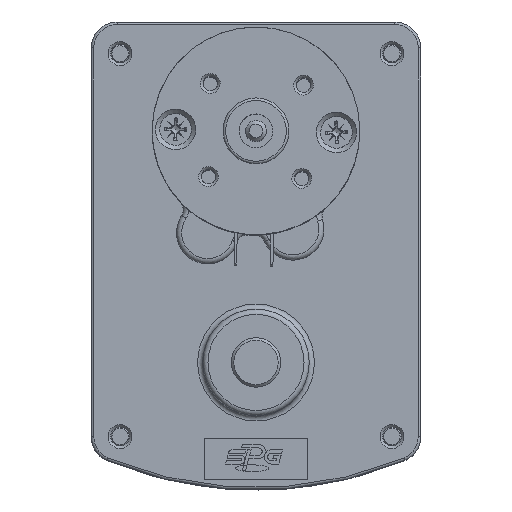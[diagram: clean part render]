
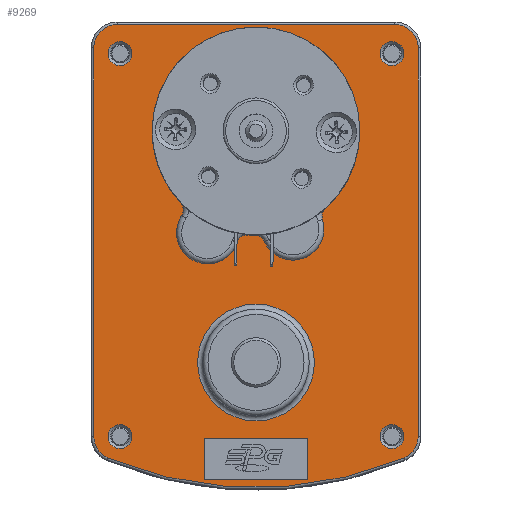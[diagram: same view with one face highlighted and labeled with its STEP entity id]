
A CAD part, top view. The second image highlights one B-rep face of the part: STEP entity #9269.
In plain terms, the highlighted planar face has unit normal (0, 0, 1).
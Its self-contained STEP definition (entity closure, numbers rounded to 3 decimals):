
#312=LINE('',#13993,#817);
#314=LINE('',#14005,#819);
#316=LINE('',#14017,#821);
#461=LINE('',#14594,#966);
#463=LINE('',#14598,#968);
#465=LINE('',#14602,#970);
#467=LINE('',#14605,#972);
#817=VECTOR('',#10973,74.87);
#819=VECTOR('',#10987,53.5);
#821=VECTOR('',#11001,74.87);
#966=VECTOR('',#11482,8.);
#968=VECTOR('',#11486,20.);
#970=VECTOR('',#11490,8.);
#972=VECTOR('',#11494,20.);
#1575=PLANE('',#10347);
#1937=FACE_BOUND('',#3255,.T.);
#1938=FACE_BOUND('',#3256,.T.);
#1939=FACE_BOUND('',#3257,.T.);
#1940=FACE_BOUND('',#3258,.T.);
#1941=FACE_BOUND('',#3259,.T.);
#1942=FACE_BOUND('',#3260,.T.);
#1943=FACE_BOUND('',#3261,.T.);
#2509=FACE_OUTER_BOUND('',#3254,.T.);
#3254=EDGE_LOOP('',(#8170,#8171,#8172,#8173,#8174,#8175,#8176,#8177));
#3255=EDGE_LOOP('',(#8178));
#3256=EDGE_LOOP('',(#8179,#8180,#8181,#8182));
#3257=EDGE_LOOP('',(#8183));
#3258=EDGE_LOOP('',(#8184));
#3259=EDGE_LOOP('',(#8185));
#3260=EDGE_LOOP('',(#8186,#8187,#8188,#8189,#8190,#8191,#8192,#8193));
#3261=EDGE_LOOP('',(#8194));
#3562=CIRCLE('',#9577,4.5);
#3568=CIRCLE('',#9585,4.5);
#3572=CIRCLE('',#9591,4.5);
#3576=CIRCLE('',#9597,4.5);
#3578=CIRCLE('',#9600,74.29);
#3657=CIRCLE('',#9754,2.3);
#3658=CIRCLE('',#9756,2.3);
#3659=CIRCLE('',#9758,2.3);
#3660=CIRCLE('',#9760,2.3);
#3910=CIRCLE('',#10289,6.);
#3912=CIRCLE('',#10292,2.);
#3914=CIRCLE('',#10295,2.);
#3916=CIRCLE('',#10298,20.);
#3918=CIRCLE('',#10301,2.);
#3920=CIRCLE('',#10304,6.);
#3922=CIRCLE('',#10307,2.);
#3924=CIRCLE('',#10310,20.);
#3937=CIRCLE('',#10348,11.25);
#4147=VERTEX_POINT('',#13981);
#4148=VERTEX_POINT('',#13983);
#4150=VERTEX_POINT('',#13989);
#4152=VERTEX_POINT('',#13995);
#4154=VERTEX_POINT('',#14001);
#4156=VERTEX_POINT('',#14007);
#4158=VERTEX_POINT('',#14013);
#4160=VERTEX_POINT('',#14019);
#4320=VERTEX_POINT('',#14579);
#4321=VERTEX_POINT('',#14582);
#4322=VERTEX_POINT('',#14585);
#4323=VERTEX_POINT('',#14588);
#4324=VERTEX_POINT('',#14591);
#4325=VERTEX_POINT('',#14593);
#4326=VERTEX_POINT('',#14597);
#4327=VERTEX_POINT('',#14601);
#4724=VERTEX_POINT('',#16705);
#4725=VERTEX_POINT('',#16707);
#4727=VERTEX_POINT('',#16713);
#4729=VERTEX_POINT('',#16719);
#4731=VERTEX_POINT('',#16725);
#4733=VERTEX_POINT('',#16731);
#4735=VERTEX_POINT('',#16737);
#4737=VERTEX_POINT('',#16743);
#4746=VERTEX_POINT('',#16805);
#5047=EDGE_CURVE('',#4147,#4148,#3562,.T.);
#5052=EDGE_CURVE('',#4148,#4150,#312,.T.);
#5055=EDGE_CURVE('',#4150,#4152,#3568,.T.);
#5058=EDGE_CURVE('',#4152,#4154,#314,.T.);
#5061=EDGE_CURVE('',#4154,#4156,#3572,.T.);
#5064=EDGE_CURVE('',#4156,#4158,#316,.T.);
#5067=EDGE_CURVE('',#4158,#4160,#3576,.T.);
#5069=EDGE_CURVE('',#4160,#4147,#3578,.T.);
#5293=EDGE_CURVE('',#4320,#4320,#3657,.T.);
#5294=EDGE_CURVE('',#4321,#4321,#3658,.T.);
#5295=EDGE_CURVE('',#4322,#4322,#3659,.T.);
#5296=EDGE_CURVE('',#4323,#4323,#3660,.T.);
#5298=EDGE_CURVE('',#4325,#4324,#461,.T.);
#5300=EDGE_CURVE('',#4326,#4325,#463,.T.);
#5302=EDGE_CURVE('',#4327,#4326,#465,.T.);
#5304=EDGE_CURVE('',#4324,#4327,#467,.T.);
#5896=EDGE_CURVE('',#4725,#4724,#3910,.T.);
#5899=EDGE_CURVE('',#4727,#4725,#3912,.T.);
#5903=EDGE_CURVE('',#4724,#4729,#3914,.T.);
#5905=EDGE_CURVE('',#4731,#4727,#3916,.T.);
#5908=EDGE_CURVE('',#4733,#4731,#3918,.T.);
#5911=EDGE_CURVE('',#4735,#4733,#3920,.T.);
#5914=EDGE_CURVE('',#4737,#4735,#3922,.T.);
#5917=EDGE_CURVE('',#4729,#4737,#3924,.T.);
#5941=EDGE_CURVE('',#4746,#4746,#3937,.T.);
#8170=ORIENTED_EDGE('',*,*,#5047,.F.);
#8171=ORIENTED_EDGE('',*,*,#5069,.F.);
#8172=ORIENTED_EDGE('',*,*,#5067,.F.);
#8173=ORIENTED_EDGE('',*,*,#5064,.F.);
#8174=ORIENTED_EDGE('',*,*,#5061,.F.);
#8175=ORIENTED_EDGE('',*,*,#5058,.F.);
#8176=ORIENTED_EDGE('',*,*,#5055,.F.);
#8177=ORIENTED_EDGE('',*,*,#5052,.F.);
#8178=ORIENTED_EDGE('',*,*,#5293,.F.);
#8179=ORIENTED_EDGE('',*,*,#5298,.T.);
#8180=ORIENTED_EDGE('',*,*,#5304,.T.);
#8181=ORIENTED_EDGE('',*,*,#5302,.T.);
#8182=ORIENTED_EDGE('',*,*,#5300,.T.);
#8183=ORIENTED_EDGE('',*,*,#5296,.F.);
#8184=ORIENTED_EDGE('',*,*,#5295,.F.);
#8185=ORIENTED_EDGE('',*,*,#5294,.F.);
#8186=ORIENTED_EDGE('',*,*,#5908,.T.);
#8187=ORIENTED_EDGE('',*,*,#5905,.T.);
#8188=ORIENTED_EDGE('',*,*,#5899,.T.);
#8189=ORIENTED_EDGE('',*,*,#5896,.T.);
#8190=ORIENTED_EDGE('',*,*,#5903,.T.);
#8191=ORIENTED_EDGE('',*,*,#5917,.T.);
#8192=ORIENTED_EDGE('',*,*,#5914,.T.);
#8193=ORIENTED_EDGE('',*,*,#5911,.T.);
#8194=ORIENTED_EDGE('',*,*,#5941,.F.);
#9269=ADVANCED_FACE('',(#2509,#1937,#1938,#1939,#1940,#1941,#1942,#1943),
#1575,.T.);
#9577=AXIS2_PLACEMENT_3D('',#13984,#10962,#10963);
#9585=AXIS2_PLACEMENT_3D('',#13999,#10980,#10981);
#9591=AXIS2_PLACEMENT_3D('',#14011,#10994,#10995);
#9597=AXIS2_PLACEMENT_3D('',#14023,#11008,#11009);
#9600=AXIS2_PLACEMENT_3D('',#14026,#11014,#11015);
#9754=AXIS2_PLACEMENT_3D('',#14580,#11465,#11466);
#9756=AXIS2_PLACEMENT_3D('',#14583,#11469,#11470);
#9758=AXIS2_PLACEMENT_3D('',#14586,#11473,#11474);
#9760=AXIS2_PLACEMENT_3D('',#14589,#11477,#11478);
#10289=AXIS2_PLACEMENT_3D('',#16708,#12753,#12754);
#10292=AXIS2_PLACEMENT_3D('',#16714,#12760,#12761);
#10295=AXIS2_PLACEMENT_3D('',#16721,#12768,#12769);
#10298=AXIS2_PLACEMENT_3D('',#16726,#12774,#12775);
#10301=AXIS2_PLACEMENT_3D('',#16732,#12781,#12782);
#10304=AXIS2_PLACEMENT_3D('',#16738,#12788,#12789);
#10307=AXIS2_PLACEMENT_3D('',#16744,#12795,#12796);
#10310=AXIS2_PLACEMENT_3D('',#16748,#12802,#12803);
#10347=AXIS2_PLACEMENT_3D('',#16804,#12887,#12888);
#10348=AXIS2_PLACEMENT_3D('',#16806,#12889,#12890);
#10962=DIRECTION('center_axis',(0.,0.,-1.));
#10963=DIRECTION('ref_axis',(-0.832,-0.555,0.));
#10973=DIRECTION('',(0.,1.,0.));
#10980=DIRECTION('center_axis',(0.,0.,-1.));
#10981=DIRECTION('ref_axis',(-0.707,0.707,0.));
#10987=DIRECTION('',(1.,0.,0.));
#10994=DIRECTION('center_axis',(0.,0.,-1.));
#10995=DIRECTION('ref_axis',(0.707,0.707,0.));
#11001=DIRECTION('',(0.,-1.,0.));
#11008=DIRECTION('center_axis',(0.,0.,-1.));
#11009=DIRECTION('ref_axis',(0.832,-0.555,0.));
#11014=DIRECTION('center_axis',(0.,0.,-1.));
#11015=DIRECTION('ref_axis',(0.,-1.,0.));
#11465=DIRECTION('center_axis',(0.,0.,1.));
#11466=DIRECTION('ref_axis',(1.,0.,0.));
#11469=DIRECTION('center_axis',(0.,0.,1.));
#11470=DIRECTION('ref_axis',(1.,0.,0.));
#11473=DIRECTION('center_axis',(0.,0.,1.));
#11474=DIRECTION('ref_axis',(1.,0.,0.));
#11477=DIRECTION('center_axis',(0.,0.,1.));
#11478=DIRECTION('ref_axis',(1.,0.,0.));
#11482=DIRECTION('',(0.,1.,0.));
#11486=DIRECTION('',(-1.,0.,0.));
#11490=DIRECTION('',(0.,-1.,0.));
#11494=DIRECTION('',(1.,0.,0.));
#12753=DIRECTION('center_axis',(0.,0.,-1.));
#12754=DIRECTION('ref_axis',(0.98,0.197,0.));
#12760=DIRECTION('center_axis',(0.,0.,1.));
#12761=DIRECTION('ref_axis',(-0.965,0.261,0.));
#12768=DIRECTION('center_axis',(0.,0.,1.));
#12769=DIRECTION('ref_axis',(0.551,0.835,0.));
#12774=DIRECTION('center_axis',(0.,0.,-1.));
#12775=DIRECTION('ref_axis',(-0.615,0.789,0.));
#12781=DIRECTION('center_axis',(0.,0.,1.));
#12782=DIRECTION('ref_axis',(0.996,0.086,0.));
#12788=DIRECTION('center_axis',(0.,0.,-1.));
#12789=DIRECTION('ref_axis',(0.656,-0.755,0.));
#12795=DIRECTION('center_axis',(0.,0.,1.));
#12796=DIRECTION('ref_axis',(-0.558,0.83,0.));
#12802=DIRECTION('center_axis',(0.,0.,-1.));
#12803=DIRECTION('ref_axis',(0.167,0.986,0.));
#12887=DIRECTION('center_axis',(0.,0.,1.));
#12888=DIRECTION('ref_axis',(1.,0.,0.));
#12889=DIRECTION('center_axis',(0.,0.,1.));
#12890=DIRECTION('ref_axis',(-1.,0.,0.));
#13981=CARTESIAN_POINT('',(-28.475,-69.226,0.));
#13983=CARTESIAN_POINT('',(-31.25,-65.07,0.));
#13984=CARTESIAN_POINT('Origin',(-26.75,-65.07,0.));
#13989=CARTESIAN_POINT('',(-31.25,9.8,0.));
#13993=CARTESIAN_POINT('',(-31.25,-65.07,0.));
#13995=CARTESIAN_POINT('',(-26.75,14.3,0.));
#13999=CARTESIAN_POINT('Origin',(-26.75,9.8,0.));
#14001=CARTESIAN_POINT('',(26.75,14.3,0.));
#14005=CARTESIAN_POINT('',(-26.75,14.3,0.));
#14007=CARTESIAN_POINT('',(31.25,9.8,0.));
#14011=CARTESIAN_POINT('Origin',(26.75,9.8,0.));
#14013=CARTESIAN_POINT('',(31.25,-65.07,0.));
#14017=CARTESIAN_POINT('',(31.25,9.8,0.));
#14019=CARTESIAN_POINT('',(28.475,-69.226,0.));
#14023=CARTESIAN_POINT('Origin',(26.75,-65.07,0.));
#14026=CARTESIAN_POINT('Origin',(0.,-0.61,0.));
#14579=CARTESIAN_POINT('',(23.89,-65.07,0.));
#14580=CARTESIAN_POINT('Origin',(26.19,-65.07,0.));
#14582=CARTESIAN_POINT('',(23.89,8.71,0.));
#14583=CARTESIAN_POINT('Origin',(26.19,8.71,0.));
#14585=CARTESIAN_POINT('',(-28.49,8.71,0.));
#14586=CARTESIAN_POINT('Origin',(-26.19,8.71,0.));
#14588=CARTESIAN_POINT('',(-28.49,-65.07,0.));
#14589=CARTESIAN_POINT('Origin',(-26.19,-65.07,0.));
#14591=CARTESIAN_POINT('',(-10.,-65.4,0.));
#14593=CARTESIAN_POINT('',(-10.,-73.4,0.));
#14594=CARTESIAN_POINT('',(-10.,-73.4,0.));
#14597=CARTESIAN_POINT('',(10.,-73.4,0.));
#14598=CARTESIAN_POINT('',(10.,-73.4,0.));
#14601=CARTESIAN_POINT('',(10.,-65.4,0.));
#14602=CARTESIAN_POINT('',(10.,-65.4,0.));
#14605=CARTESIAN_POINT('',(-10.,-65.4,0.));
#16705=CARTESIAN_POINT('',(1.607,-27.494,0.));
#16707=CARTESIAN_POINT('',(12.816,-23.256,0.));
#16708=CARTESIAN_POINT('Origin',(7.1,-25.08,0.));
#16713=CARTESIAN_POINT('',(13.383,-21.162,0.));
#16714=CARTESIAN_POINT('Origin',(14.722,-22.649,0.));
#16719=CARTESIAN_POINT('',(-0.204,-26.299,0.));
#16721=CARTESIAN_POINT('Origin',(-0.224,-28.299,0.));
#16725=CARTESIAN_POINT('',(-14.551,-20.021,0.));
#16726=CARTESIAN_POINT('Origin',(0.,-6.3,
0.));
#16731=CARTESIAN_POINT('',(-14.337,-22.495,0.));
#16732=CARTESIAN_POINT('Origin',(-16.007,-21.393,0.));
#16737=CARTESIAN_POINT('',(-3.614,-27.625,0.));
#16738=CARTESIAN_POINT('Origin',(-9.33,-25.8,0.));
#16743=CARTESIAN_POINT('',(-1.554,-26.24,0.));
#16744=CARTESIAN_POINT('Origin',(-1.709,-28.234,0.));
#16748=CARTESIAN_POINT('Origin',(0.,-6.3,
0.));
#16804=CARTESIAN_POINT('Origin',(0.,-27.996,0.));
#16805=CARTESIAN_POINT('',(11.25,-50.8,0.));
#16806=CARTESIAN_POINT('Origin',(0.,-50.8,0.));
